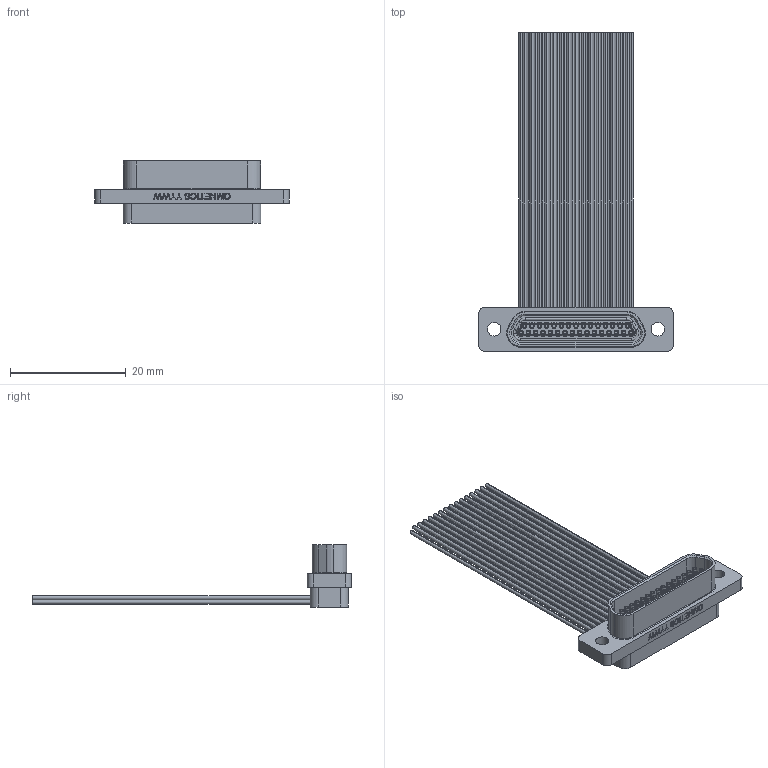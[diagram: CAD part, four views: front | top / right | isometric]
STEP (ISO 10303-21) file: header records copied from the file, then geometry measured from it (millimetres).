
FILE_DESCRIPTION (( 'STEP AP214' ), '1' );
FILE_NAME ('A99308-031 REV A.STEP', '2021-01-20T18:38:00', ( '' ), ( '' ), 'SwSTEP 2.0', 'SolidWorks 2019', '' );
FILE_SCHEMA (( 'AUTOMOTIVE_DESIGN' ));
Length unit declared in the file: inch
Products named in the file (1): A99308-031 REV A
Bounding box: 33.66 x 55.17 x 10.77 mm (x, y, z)
Volume: 1888.8 mm3; surface area: 5467.4 mm2
Topology: 1 solids, 2 shells, 879 faces, 2012 edges, 1303 vertices
Faces by surface type: cylinder 426, plane 319, torus 75, bspline 54, cone 5
Entity records: 39323 total; most frequent: CARTESIAN_POINT 7395, DIRECTION 4540, ORIENTED_EDGE 4012, EDGE_CURVE 2006, AXIS2_PLACEMENT_3D 1824, VERTEX_POINT 1303, EDGE_LOOP 1057, CIRCLE 998
